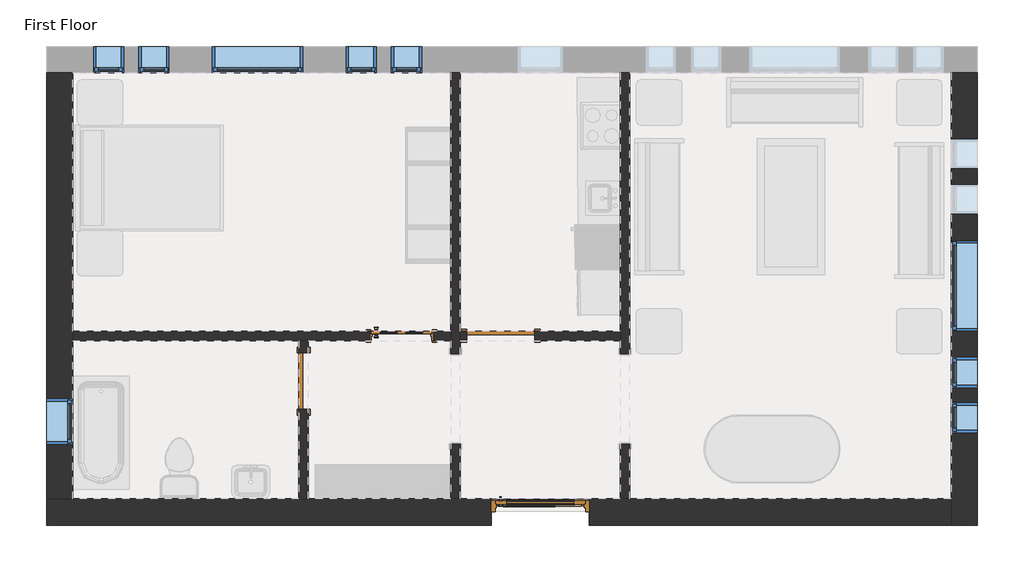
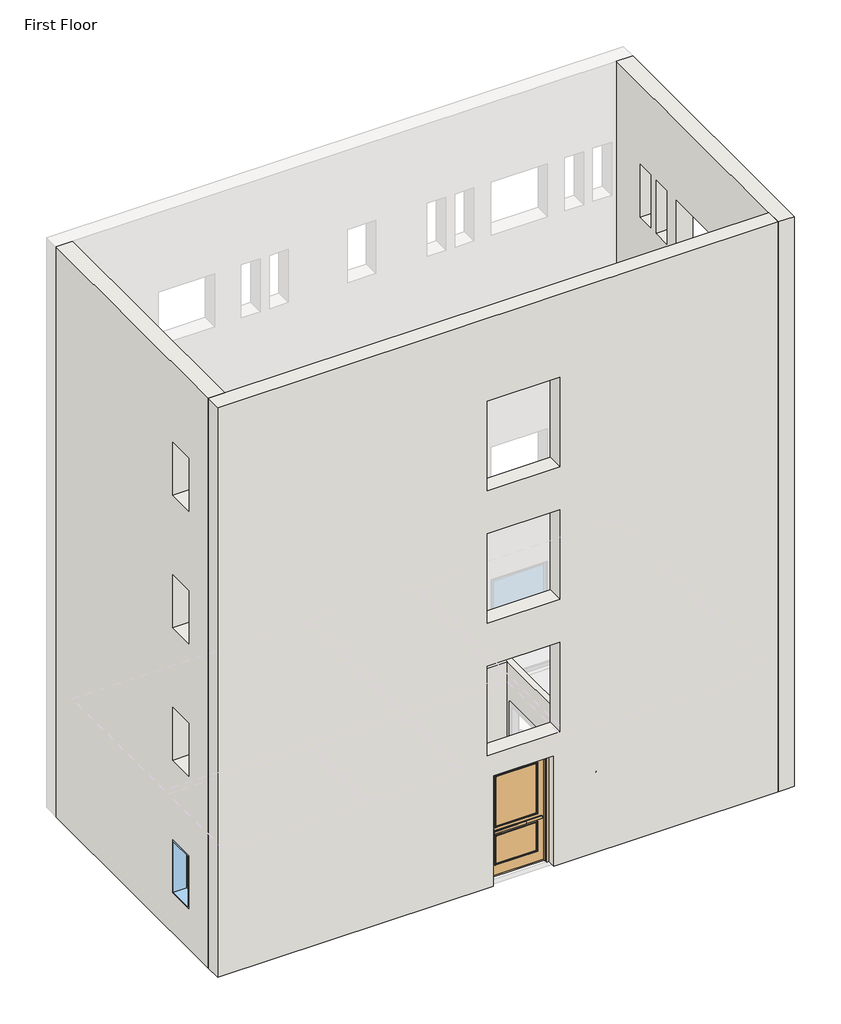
# One storey, part 1 of 2: 9 windows, 7 walls, 4 doors.
"""IFC4 building model written with IfcOpenShell, lengths in millimetres."""

from ifc_helpers import new_model, si_unit, frame, origin, place, context, project, spatial, polyline, outline, extrude, faceted_brep, transform, mapped, element, save
from components import door_c4539963, door_interior_single_4_panel_wood_door_interior_single_4_f9b1e9fa, door_4d6c7550, door_a3eb833a, window_da97879f, window_d61ef850, window_60baf983, window_6eb97611

model = new_model("IFC4")

# Units and contexts
model_context = context("Model", 3, world=origin())
ifc_project = project(units=[si_unit("LENGTHUNIT", "METRE", prefix="MILLI")], contexts=[model_context])

# Site, building, storey
site = spatial("IfcSite", under=ifc_project)
building = spatial("IfcBuilding", under=site)
storey = spatial("IfcBuildingStorey", under=building, Name="First Floor", Elevation=0.0)

# Doors
placement = place(None, origin())
door_shape = door_c4539963(model_context)
element("IfcDoor", 1, ObjectType="Door-Exterior-Single-Two_Lite : 48\" x 96\"", at=placement, inside=storey, context=model_context, shape_type="MappedRepresentation", body=[
    mapped(door_shape, transform((2065.4428612, -1.244181, 0.0), x_axis=(1.0, 0.0, 0.0), y_axis=(0.0, 1.0, 0.0), z_axis=(0.0, 0.0, 1.0))),
])
door_interior_single_4_panel_wood_door_interior_single_4_shape = door_interior_single_4_panel_wood_door_interior_single_4_f9b1e9fa(model_context)
element("IfcDoor", 2, ObjectType="Door-Interior-Single-4_Panel-Wood : Door-Interior-Single-4_Panel-Wood", at=placement, inside=storey, context=model_context, shape_type="MappedRepresentation", body=[
    mapped(door_interior_single_4_panel_wood_door_interior_single_4_shape, transform((196.9553612, 2381.593319, 0.0), x_axis=(1.0, 0.0, 0.0), y_axis=(0.0, 1.0, 0.0), z_axis=(0.0, 0.0, 1.0))),
])
door_2_shape = door_4d6c7550(model_context)
element("IfcDoor", 3, ObjectType="Single-Flush : 30\" x 84\"", at=placement, inside=storey, context=model_context, shape_type="MappedRepresentation", body=[
    mapped(door_2_shape, transform((-1123.8446388, 1768.818319, 0.0), x_axis=(0.0, 1.0, 0.0), y_axis=(-1.0, 0.0, 0.0), z_axis=(0.0, 0.0, 1.0))),
])
door_3_shape = door_a3eb833a(model_context)
element("IfcDoor", 4, ObjectType="Single-Flush : 36\" x 84\"", at=placement, inside=storey, context=model_context, shape_type="MappedRepresentation", body=[
    mapped(door_3_shape, transform((1532.0428612, 2378.418319, 0.0), x_axis=(-1.0, 0.0, 0.0), y_axis=(0.0, -1.0, 0.0), z_axis=(0.0, 0.0, 1.0))),
])

# Walls
element("IfcWall", 5, ObjectType="Exterior - Brick on Mtl. Stud", at=placement, inside=storey, context=model_context, shape_type="Brep", body=[
    faceted_brep([(7604.2303612, 5924.893319, 0.0), (7604.2303612, 181.318319, 0.0), (7604.2303612, 16.218319, 0.0), (7604.2303612, -171.106681, 0.0), (7604.2303612, -171.106681, 13106.4), (7604.2303612, 181.318319, 13106.4), (7604.2303612, 5924.893319, 13106.4), (7604.2303612, 3662.705819, 2133.6), (7604.2303612, 2443.505819, 2133.6), (7604.2303612, 2443.505819, 914.4), (7604.2303612, 3662.705819, 914.4), (7604.2303612, 4424.705819, 2133.6), (7604.2303612, 4018.305819, 2133.6), (7604.2303612, 4018.305819, 914.4), (7604.2303612, 4424.705819, 914.4), (7604.2303612, 5034.305819, 2133.6), (7604.2303612, 4627.905819, 2133.6), (7604.2303612, 4627.905819, 914.4), (7604.2303612, 5034.305819, 914.4), (7604.2303612, 1681.505819, 2133.6), (7604.2303612, 1681.505819, 914.4), (7604.2303612, 2087.905819, 914.4), (7604.2303612, 2087.905819, 2133.6), (7604.2303612, 1071.905819, 2133.6), (7604.2303612, 1071.905819, 914.4), (7604.2303612, 1478.305819, 914.4), (7604.2303612, 1478.305819, 2133.6), (7604.2303612, 1681.505819, 11277.6), (7604.2303612, 1681.505819, 10058.4), (7604.2303612, 2087.905819, 10058.4), (7604.2303612, 2087.905819, 11277.6), (7604.2303612, 1071.905819, 11277.6), (7604.2303612, 1071.905819, 10058.4), (7604.2303612, 1478.305819, 10058.4), (7604.2303612, 1478.305819, 11277.6), (7604.2303612, 4424.705819, 11277.6), (7604.2303612, 4018.305819, 11277.6), (7604.2303612, 4018.305819, 10058.4), (7604.2303612, 4424.705819, 10058.4), (7604.2303612, 5034.305819, 11277.6), (7604.2303612, 4627.905819, 11277.6), (7604.2303612, 4627.905819, 10058.4), (7604.2303612, 5034.305819, 10058.4), (7604.2303612, 3662.705819, 11277.6), (7604.2303612, 2443.505819, 11277.6), (7604.2303612, 2443.505819, 10058.4), (7604.2303612, 3662.705819, 10058.4), (7604.2303612, 1681.505819, 5181.6), (7604.2303612, 1681.505819, 3962.4), (7604.2303612, 2087.905819, 3962.4), (7604.2303612, 2087.905819, 5181.6), (7604.2303612, 1071.905819, 5181.6), (7604.2303612, 1071.905819, 3962.4), (7604.2303612, 1478.305819, 3962.4), (7604.2303612, 1478.305819, 5181.6), (7604.2303612, 4424.705819, 5181.6), (7604.2303612, 4018.305819, 5181.6), (7604.2303612, 4018.305819, 3962.4), (7604.2303612, 4424.705819, 3962.4), (7604.2303612, 5034.305819, 5181.6), (7604.2303612, 4627.905819, 5181.6), (7604.2303612, 4627.905819, 3962.4), (7604.2303612, 5034.305819, 3962.4), (7604.2303612, 3662.705819, 5181.6), (7604.2303612, 2443.505819, 5181.6), (7604.2303612, 2443.505819, 3962.4), (7604.2303612, 3662.705819, 3962.4), (7604.2303612, 1681.505819, 8229.6), (7604.2303612, 1681.505819, 7010.4), (7604.2303612, 2087.905819, 7010.4), (7604.2303612, 2087.905819, 8229.6), (7604.2303612, 1071.905819, 8229.6), (7604.2303612, 1071.905819, 7010.4), (7604.2303612, 1478.305819, 7010.4), (7604.2303612, 1478.305819, 8229.6), (7604.2303612, 4424.705819, 8229.6), (7604.2303612, 4018.305819, 8229.6), (7604.2303612, 4018.305819, 7010.4), (7604.2303612, 4424.705819, 7010.4), (7604.2303612, 5034.305819, 8229.6), (7604.2303612, 4627.905819, 8229.6), (7604.2303612, 4627.905819, 7010.4), (7604.2303612, 5034.305819, 7010.4), (7604.2303612, 3662.705819, 8229.6), (7604.2303612, 2443.505819, 8229.6), (7604.2303612, 2443.505819, 7010.4), (7604.2303612, 3662.705819, 7010.4), (7956.6553612, 5924.893319, 0.0), (7956.6553612, 5924.893319, 13106.4), (7956.6553612, -171.106681, 13106.4), (7956.6553612, -171.106681, 0.0), (7956.6553612, 16.218319, 0.0), (7956.6553612, 3662.705819, 2133.6), (7956.6553612, 3662.705819, 914.4), (7956.6553612, 2443.505819, 914.4), (7956.6553612, 2443.505819, 2133.6), (7956.6553612, 4424.705819, 2133.6), (7956.6553612, 4424.705819, 914.4), (7956.6553612, 4018.305819, 914.4), (7956.6553612, 4018.305819, 2133.6), (7956.6553612, 5034.305819, 2133.6), (7956.6553612, 5034.305819, 914.4), (7956.6553612, 4627.905819, 914.4), (7956.6553612, 4627.905819, 2133.6), (7956.6553612, 1681.505819, 2133.6), (7956.6553612, 2087.905819, 2133.6), (7956.6553612, 2087.905819, 914.4), (7956.6553612, 1681.505819, 914.4), (7956.6553612, 1071.905819, 2133.6), (7956.6553612, 1478.305819, 2133.6), (7956.6553612, 1478.305819, 914.4), (7956.6553612, 1071.905819, 914.4), (7956.6553612, 1681.505819, 11277.6), (7956.6553612, 2087.905819, 11277.6), (7956.6553612, 2087.905819, 10058.4), (7956.6553612, 1681.505819, 10058.4), (7956.6553612, 1071.905819, 11277.6), (7956.6553612, 1478.305819, 11277.6), (7956.6553612, 1478.305819, 10058.4), (7956.6553612, 1071.905819, 10058.4), (7956.6553612, 4424.705819, 11277.6), (7956.6553612, 4424.705819, 10058.4), (7956.6553612, 4018.305819, 10058.4), (7956.6553612, 4018.305819, 11277.6), (7956.6553612, 5034.305819, 11277.6), (7956.6553612, 5034.305819, 10058.4), (7956.6553612, 4627.905819, 10058.4), (7956.6553612, 4627.905819, 11277.6), (7956.6553612, 3662.705819, 11277.6), (7956.6553612, 3662.705819, 10058.4), (7956.6553612, 2443.505819, 10058.4), (7956.6553612, 2443.505819, 11277.6), (7956.6553612, 1681.505819, 5181.6), (7956.6553612, 2087.905819, 5181.6), (7956.6553612, 2087.905819, 3962.4), (7956.6553612, 1681.505819, 3962.4), (7956.6553612, 1071.905819, 5181.6), (7956.6553612, 1478.305819, 5181.6), (7956.6553612, 1478.305819, 3962.4), (7956.6553612, 1071.905819, 3962.4), (7956.6553612, 4424.705819, 5181.6), (7956.6553612, 4424.705819, 3962.4), (7956.6553612, 4018.305819, 3962.4), (7956.6553612, 4018.305819, 5181.6), (7956.6553612, 5034.305819, 5181.6), (7956.6553612, 5034.305819, 3962.4), (7956.6553612, 4627.905819, 3962.4), (7956.6553612, 4627.905819, 5181.6), (7956.6553612, 3662.705819, 5181.6), (7956.6553612, 3662.705819, 3962.4), (7956.6553612, 2443.505819, 3962.4), (7956.6553612, 2443.505819, 5181.6), (7956.6553612, 1681.505819, 8229.6), (7956.6553612, 2087.905819, 8229.6), (7956.6553612, 2087.905819, 7010.4), (7956.6553612, 1681.505819, 7010.4), (7956.6553612, 1071.905819, 8229.6), (7956.6553612, 1478.305819, 8229.6), (7956.6553612, 1478.305819, 7010.4), (7956.6553612, 1071.905819, 7010.4), (7956.6553612, 4424.705819, 8229.6), (7956.6553612, 4424.705819, 7010.4), (7956.6553612, 4018.305819, 7010.4), (7956.6553612, 4018.305819, 8229.6), (7956.6553612, 5034.305819, 8229.6), (7956.6553612, 5034.305819, 7010.4), (7956.6553612, 4627.905819, 7010.4), (7956.6553612, 4627.905819, 8229.6), (7956.6553612, 3662.705819, 8229.6), (7956.6553612, 3662.705819, 7010.4), (7956.6553612, 2443.505819, 7010.4), (7956.6553612, 2443.505819, 8229.6), (7769.3303612, 5924.893319, 0.0), (7769.3303612, -171.106681, 0.0), (7769.3303612, 16.218319, 0.0)], [[[0, 1, 2, 3, 4, 5, 6], [7, 8, 9, 10], [11, 12, 13, 14], [15, 16, 17, 18], [19, 20, 21, 22], [23, 24, 25, 26], [27, 28, 29, 30], [31, 32, 33, 34], [35, 36, 37, 38], [39, 40, 41, 42], [43, 44, 45, 46], [47, 48, 49, 50], [51, 52, 53, 54], [55, 56, 57, 58], [59, 60, 61, 62], [63, 64, 65, 66], [67, 68, 69, 70], [71, 72, 73, 74], [75, 76, 77, 78], [79, 80, 81, 82], [83, 84, 85, 86]], [[87, 88, 89, 90, 91], [92, 93, 94, 95], [96, 97, 98, 99], [100, 101, 102, 103], [104, 105, 106, 107], [108, 109, 110, 111], [112, 113, 114, 115], [116, 117, 118, 119], [120, 121, 122, 123], [124, 125, 126, 127], [128, 129, 130, 131], [132, 133, 134, 135], [136, 137, 138, 139], [140, 141, 142, 143], [144, 145, 146, 147], [148, 149, 150, 151], [152, 153, 154, 155], [156, 157, 158, 159], [160, 161, 162, 163], [164, 165, 166, 167], [168, 169, 170, 171]], [[6, 5, 4, 89, 88]], [[0, 6, 88, 87, 172]], [[4, 3, 173, 90, 89]], [[93, 92, 7, 10]], [[94, 93, 10, 9]], [[95, 94, 9, 8]], [[92, 95, 8, 7]], [[97, 96, 11, 14]], [[98, 97, 14, 13]], [[99, 98, 13, 12]], [[96, 99, 12, 11]], [[101, 100, 15, 18]], [[102, 101, 18, 17]], [[103, 102, 17, 16]], [[100, 103, 16, 15]], [[20, 19, 104, 107]], [[21, 20, 107, 106]], [[22, 21, 106, 105]], [[19, 22, 105, 104]], [[24, 23, 108, 111]], [[25, 24, 111, 110]], [[26, 25, 110, 109]], [[23, 26, 109, 108]], [[172, 87, 91, 174]], [[3, 2, 174, 173]], [[174, 91, 90, 173]], [[2, 1, 0, 172, 174]], [[28, 27, 112, 115]], [[29, 28, 115, 114]], [[30, 29, 114, 113]], [[27, 30, 113, 112]], [[32, 31, 116, 119]], [[33, 32, 119, 118]], [[34, 33, 118, 117]], [[31, 34, 117, 116]], [[121, 120, 35, 38]], [[122, 121, 38, 37]], [[123, 122, 37, 36]], [[120, 123, 36, 35]], [[125, 124, 39, 42]], [[126, 125, 42, 41]], [[127, 126, 41, 40]], [[124, 127, 40, 39]], [[129, 128, 43, 46]], [[130, 129, 46, 45]], [[131, 130, 45, 44]], [[128, 131, 44, 43]], [[48, 47, 132, 135]], [[49, 48, 135, 134]], [[50, 49, 134, 133]], [[47, 50, 133, 132]], [[52, 51, 136, 139]], [[53, 52, 139, 138]], [[54, 53, 138, 137]], [[51, 54, 137, 136]], [[141, 140, 55, 58]], [[142, 141, 58, 57]], [[143, 142, 57, 56]], [[140, 143, 56, 55]], [[145, 144, 59, 62]], [[146, 145, 62, 61]], [[147, 146, 61, 60]], [[144, 147, 60, 59]], [[149, 148, 63, 66]], [[150, 149, 66, 65]], [[151, 150, 65, 64]], [[148, 151, 64, 63]], [[68, 67, 152, 155]], [[69, 68, 155, 154]], [[70, 69, 154, 153]], [[67, 70, 153, 152]], [[72, 71, 156, 159]], [[73, 72, 159, 158]], [[74, 73, 158, 157]], [[71, 74, 157, 156]], [[161, 160, 75, 78]], [[162, 161, 78, 77]], [[163, 162, 77, 76]], [[160, 163, 76, 75]], [[165, 164, 79, 82]], [[166, 165, 82, 81]], [[167, 166, 81, 80]], [[164, 167, 80, 79]], [[169, 168, 83, 86]], [[170, 169, 86, 85]], [[171, 170, 85, 84]], [[168, 171, 84, 83]]]),
])
element("IfcWall", 6, ObjectType="Exterior - Brick on Mtl. Stud", at=placement, inside=storey, context=model_context, shape_type="Brep", body=[
    faceted_brep([(-4587.7696388, 181.318319, 13106.4), (-4235.3446388, 181.318319, 13106.4), (7604.2303612, 181.318319, 13106.4), (7604.2303612, 181.318319, 0.0), (3271.9428612, 181.318319, 0.0), (3144.9428612, 181.318319, 0.0), (2725.8428612, 181.318319, 0.0), (2725.8428612, 181.318319, 2540.0), (1405.0428612, 181.318319, 2540.0), (1405.0428612, 181.318319, 0.0), (985.9428612, 181.318319, 0.0), (858.9428612, 181.318319, 0.0), (-1060.3446388, 181.318319, 0.0), (-1187.3446388, 181.318319, 0.0), (-4235.3446388, 181.318319, 0.0), (-4587.7696388, 181.318319, 0.0), (2852.8428612, 181.318319, 9144.0), (2852.8428612, 181.318319, 11201.4), (1278.0428612, 181.318319, 11201.4), (1278.0428612, 181.318319, 9144.0), (2852.8428612, 181.318319, 3048.0), (2852.8428612, 181.318319, 5105.4), (1278.0428612, 181.318319, 5105.4), (1278.0428612, 181.318319, 3048.0), (2852.8428612, 181.318319, 6096.0), (2852.8428612, 181.318319, 8153.4), (1278.0428612, 181.318319, 8153.4), (1278.0428612, 181.318319, 6096.0), (7604.2303612, -171.106681, 13106.4), (-4587.7696388, -171.106681, 13106.4), (-4587.7696388, -171.106681, 0.0), (1405.0428612, -171.106681, 0.0), (1405.0428612, -171.106681, 2540.0), (2725.8428612, -171.106681, 2540.0), (2725.8428612, -171.106681, 0.0), (7604.2303612, -171.106681, 0.0), (2852.8428612, -171.106681, 11201.4), (2852.8428612, -171.106681, 9144.0), (1278.0428612, -171.106681, 9144.0), (1278.0428612, -171.106681, 11201.4), (2852.8428612, -171.106681, 5105.4), (2852.8428612, -171.106681, 3048.0), (1278.0428612, -171.106681, 3048.0), (1278.0428612, -171.106681, 5105.4), (2852.8428612, -171.106681, 8153.4), (2852.8428612, -171.106681, 6096.0), (1278.0428612, -171.106681, 6096.0), (1278.0428612, -171.106681, 8153.4)], [[[0, 1, 2, 3, 4, 5, 6, 7, 8, 9, 10, 11, 12, 13, 14, 15], [16, 17, 18, 19], [20, 21, 22, 23], [24, 25, 26, 27]], [[28, 29, 30, 31, 32, 33, 34, 35], [36, 37, 38, 39], [40, 41, 42, 43], [44, 45, 46, 47]], [[3, 35, 34, 6, 5, 4]], [[30, 15, 14, 13, 12, 11, 10, 9, 31]], [[2, 1, 0, 29, 28]], [[3, 2, 28, 35]], [[0, 15, 30, 29]], [[17, 16, 37, 36]], [[18, 17, 36, 39]], [[19, 18, 39, 38]], [[16, 19, 38, 37]], [[21, 20, 41, 40]], [[22, 21, 40, 43]], [[23, 22, 43, 42]], [[20, 23, 42, 41]], [[25, 24, 45, 44]], [[26, 25, 44, 47]], [[27, 26, 47, 46]], [[24, 27, 46, 45]], [[33, 7, 6, 34]], [[7, 33, 32, 8]], [[8, 32, 31, 9]]]),
])
element("IfcWall", 7, ObjectType="Exterior - Brick on Mtl. Stud", at=placement, inside=storey, context=model_context, shape_type="Brep", body=[
    faceted_brep([(-4235.3446388, 181.318319, 0.0), (-4235.3446388, 2314.918319, 0.0), (-4235.3446388, 2441.918319, 0.0), (-4235.3446388, 5924.893319, 0.0), (-4235.3446388, 5924.893319, 13106.4), (-4235.3446388, 181.318319, 13106.4), (-4235.3446388, 919.505819, 2133.6), (-4235.3446388, 1529.105819, 2133.6), (-4235.3446388, 1529.105819, 914.4), (-4235.3446388, 919.505819, 914.4), (-4235.3446388, 919.505819, 11277.6), (-4235.3446388, 1529.105819, 11277.6), (-4235.3446388, 1529.105819, 10058.4), (-4235.3446388, 919.505819, 10058.4), (-4235.3446388, 919.505819, 5181.6), (-4235.3446388, 1529.105819, 5181.6), (-4235.3446388, 1529.105819, 3962.4), (-4235.3446388, 919.505819, 3962.4), (-4235.3446388, 919.505819, 8229.6), (-4235.3446388, 1529.105819, 8229.6), (-4235.3446388, 1529.105819, 7010.4), (-4235.3446388, 919.505819, 7010.4), (-4587.7696388, 181.318319, 0.0), (-4587.7696388, 181.318319, 13106.4), (-4587.7696388, 5924.893319, 13106.4), (-4587.7696388, 5924.893319, 0.0), (-4587.7696388, 919.505819, 2133.6), (-4587.7696388, 919.505819, 914.4), (-4587.7696388, 1529.105819, 914.4), (-4587.7696388, 1529.105819, 2133.6), (-4587.7696388, 919.505819, 11277.6), (-4587.7696388, 919.505819, 10058.4), (-4587.7696388, 1529.105819, 10058.4), (-4587.7696388, 1529.105819, 11277.6), (-4587.7696388, 919.505819, 5181.6), (-4587.7696388, 919.505819, 3962.4), (-4587.7696388, 1529.105819, 3962.4), (-4587.7696388, 1529.105819, 5181.6), (-4587.7696388, 919.505819, 8229.6), (-4587.7696388, 919.505819, 7010.4), (-4587.7696388, 1529.105819, 7010.4), (-4587.7696388, 1529.105819, 8229.6), (-4400.4446388, 181.318319, 0.0), (-4400.4446388, 5924.893319, 0.0)], [[[0, 1, 2, 3, 4, 5], [6, 7, 8, 9], [10, 11, 12, 13], [14, 15, 16, 17], [18, 19, 20, 21]], [[22, 23, 24, 25], [26, 27, 28, 29], [30, 31, 32, 33], [34, 35, 36, 37], [38, 39, 40, 41]], [[5, 4, 24, 23]], [[0, 5, 23, 22, 42]], [[4, 3, 43, 25, 24]], [[27, 26, 6, 9]], [[28, 27, 9, 8]], [[29, 28, 8, 7]], [[26, 29, 7, 6]], [[42, 22, 25, 43]], [[3, 2, 1, 0, 42, 43]], [[31, 30, 10, 13]], [[32, 31, 13, 12]], [[33, 32, 12, 11]], [[30, 33, 11, 10]], [[35, 34, 14, 17]], [[36, 35, 17, 16]], [[37, 36, 16, 15]], [[34, 37, 15, 14]], [[39, 38, 18, 21]], [[40, 39, 21, 20]], [[41, 40, 20, 19]], [[38, 41, 19, 18]]]),
])
element("IfcWall", 8, ObjectType="Interior - 5\" Partition (2-hr)", at=placement, inside=storey, context=model_context, shape_type="Brep", body=[
    faceted_brep([(3144.9428612, 5924.893319, 0.0), (3144.9428612, 2441.918319, 0.0), (3144.9428612, 2314.918319, 0.0), (3144.9428612, 2138.705819, 0.0), (3144.9428612, 2138.705819, 2133.6), (3144.9428612, 919.505819, 2133.6), (3144.9428612, 919.505819, 0.0), (3144.9428612, 181.318319, 0.0), (3144.9428612, 181.318319, 3048.0), (3144.9428612, 2314.918319, 3048.0), (3144.9428612, 2441.918319, 3048.0), (3144.9428612, 5924.893319, 3048.0), (3271.9428612, 2138.705819, 2133.6), (3271.9428612, 2138.705819, 0.0), (3271.9428612, 5924.893319, 0.0), (3271.9428612, 5924.893319, 3048.0), (3271.9428612, 181.318319, 3048.0), (3271.9428612, 181.318319, 0.0), (3271.9428612, 919.505819, 0.0), (3271.9428612, 919.505819, 2133.6)], [[[0, 1, 2, 3, 4, 5, 6, 7, 8, 9, 10, 11]], [[12, 13, 14, 15, 16, 17, 18, 19]], [[18, 17, 7, 6]], [[14, 13, 3, 2, 1, 0]], [[11, 10, 9, 8, 16, 15]], [[0, 11, 15, 14]], [[8, 7, 17, 16]], [[6, 5, 19, 18]], [[4, 3, 13, 12]], [[5, 4, 12, 19]]]),
])
element("IfcWall", 9, ObjectType="Interior - 5\" Partition (2-hr)", at=placement, inside=storey, context=model_context, shape_type="Brep", body=[
    faceted_brep([(858.9428612, 919.505819, 2133.6), (858.9428612, 919.505819, 0.0), (858.9428612, 181.318319, 0.0), (858.9428612, 181.318319, 3048.0), (858.9428612, 2314.918319, 3048.0), (858.9428612, 2441.918319, 3048.0), (858.9428612, 5924.893319, 3048.0), (858.9428612, 5924.893319, 0.0), (858.9428612, 2441.918319, 0.0), (858.9428612, 2314.918319, 0.0), (858.9428612, 2138.705819, 0.0), (858.9428612, 2138.705819, 2133.6), (985.9428612, 181.318319, 0.0), (985.9428612, 919.505819, 0.0), (985.9428612, 919.505819, 2133.6), (985.9428612, 2138.705819, 2133.6), (985.9428612, 2138.705819, 0.0), (985.9428612, 2314.918319, 0.0), (985.9428612, 2441.918319, 0.0), (985.9428612, 5924.893319, 0.0), (985.9428612, 5924.893319, 3048.0), (985.9428612, 2441.918319, 3048.0), (985.9428612, 2314.918319, 3048.0), (985.9428612, 181.318319, 3048.0)], [[[0, 1, 2, 3, 4, 5, 6, 7, 8, 9, 10, 11]], [[12, 13, 14, 15, 16, 17, 18, 19, 20, 21, 22, 23]], [[2, 1, 13, 12]], [[10, 9, 8, 7, 19, 18, 17, 16]], [[6, 5, 4, 3, 23, 22, 21, 20]], [[7, 6, 20, 19]], [[3, 2, 12, 23]], [[16, 15, 11, 10]], [[14, 13, 1, 0]], [[15, 14, 0, 11]]]),
])
element("IfcWall", 10, ObjectType="Interior - 5\" Partition (2-hr)", at=placement, inside=storey, context=model_context, shape_type="Brep", body=[
    faceted_brep([(-4235.3446388, 2314.918319, 3048.0), (-4235.3446388, 2314.918319, 0.0), (-1187.3446388, 2314.918319, 0.0), (-1060.3446388, 2314.918319, 0.0), (-234.8446388, 2314.918319, 0.0), (-234.8446388, 2314.918319, 2057.4), (628.7553612, 2314.918319, 2057.4), (628.7553612, 2314.918319, 0.0), (858.9428612, 2314.918319, 0.0), (858.9428612, 2314.918319, 3048.0), (-1060.3446388, 2314.918319, 3048.0), (-1187.3446388, 2314.918319, 3048.0), (-4235.3446388, 2441.918319, 0.0), (-4235.3446388, 2441.918319, 3048.0), (858.9428612, 2441.918319, 3048.0), (858.9428612, 2441.918319, 0.0), (628.7553612, 2441.918319, 0.0), (628.7553612, 2441.918319, 2057.4), (-234.8446388, 2441.918319, 2057.4), (-234.8446388, 2441.918319, 0.0)], [[[0, 1, 2, 3, 4, 5, 6, 7, 8, 9, 10, 11]], [[12, 13, 14, 15, 16, 17, 18, 19]], [[1, 12, 19, 4, 3, 2]], [[7, 16, 15, 8]], [[13, 0, 11, 10, 9, 14]], [[1, 0, 13, 12]], [[9, 8, 15, 14]], [[6, 17, 16, 7]], [[17, 6, 5, 18]], [[18, 5, 4, 19]]]),
    faceted_brep([(3144.9428612, 2314.918319, 0.0), (3144.9428612, 2314.918319, 3048.0), (985.9428612, 2314.918319, 3048.0), (985.9428612, 2314.918319, 0.0), (1074.8428612, 2314.918319, 0.0), (1074.8428612, 2314.918319, 2133.6), (1989.2428612, 2314.918319, 2133.6), (1989.2428612, 2314.918319, 0.0), (3144.9428612, 2441.918319, 3048.0), (3144.9428612, 2441.918319, 0.0), (1989.2428612, 2441.918319, 0.0), (1989.2428612, 2441.918319, 2133.6), (1074.8428612, 2441.918319, 2133.6), (1074.8428612, 2441.918319, 0.0), (985.9428612, 2441.918319, 0.0), (985.9428612, 2441.918319, 3048.0)], [[[0, 1, 2, 3, 4, 5, 6, 7]], [[8, 9, 10, 11, 12, 13, 14, 15]], [[9, 0, 7, 10]], [[13, 4, 3, 14]], [[1, 8, 15, 2]], [[1, 0, 9, 8]], [[3, 2, 15, 14]], [[5, 4, 13, 12]], [[6, 5, 12, 11]], [[7, 6, 11, 10]]]),
])
element("IfcWall", 11, ObjectType="Interior - 5\" Partition (2-hr)", at=placement, inside=storey, context=model_context, shape_type="SweptSolid", body=[
    extrude(outline(polyline([(2314.918319, 0.0), (2149.818319, 0.0), (2149.818319, 2133.6), (1387.818319, 2133.6), (1387.818319, 0.0), (181.318319, 0.0), (181.318319, 3048.0), (2314.918319, 3048.0), (2314.918319, 0.0)])), frame((-1187.3446388, 0.0, 0.0), z_axis=(1.0, 0.0, 0.0), x_axis=(0.0, 1.0, 0.0)), (0.0, 0.0, 1.0), 127.0),
])

# Windows
window_shape = window_da97879f(model_context)
element("IfcWindow", 12, ObjectType="Fixed : 16\" x 48\"", at=placement, inside=storey, context=model_context, shape_type="MappedRepresentation", body=[
    mapped(window_shape, transform((-3789.2571388, 6101.105819, 0.0), x_axis=(-1.0, 0.0, 0.0), y_axis=(0.0, -1.0, 0.0), z_axis=(0.0, 0.0, 1.0))),
])
element("IfcWindow", 13, ObjectType="Fixed : 16\" x 48\"", at=placement, inside=storey, context=model_context, shape_type="MappedRepresentation", body=[
    mapped(window_shape, transform((-3179.6571388, 6101.105819, 0.0), x_axis=(-1.0, 0.0, 0.0), y_axis=(0.0, -1.0, 0.0), z_axis=(0.0, 0.0, 1.0))),
])
window_2_shape = window_d61ef850(model_context)
element("IfcWindow", 14, ObjectType="Fixed : 16\" x 48\"", at=placement, inside=storey, context=model_context, shape_type="MappedRepresentation", body=[
    mapped(window_2_shape, transform((300.1428612, 6101.105819, 0.0), x_axis=(1.0, 0.0, 0.0), y_axis=(0.0, 1.0, 0.0), z_axis=(0.0, 0.0, 1.0))),
])
element("IfcWindow", 15, ObjectType="Fixed : 16\" x 48\"", at=placement, inside=storey, context=model_context, shape_type="MappedRepresentation", body=[
    mapped(window_2_shape, transform((-309.4571388, 6101.105819, 0.0), x_axis=(1.0, 0.0, 0.0), y_axis=(0.0, 1.0, 0.0), z_axis=(0.0, 0.0, 1.0))),
])
element("IfcWindow", 16, ObjectType="Fixed : 16\" x 48\"", at=placement, inside=storey, context=model_context, shape_type="MappedRepresentation", body=[
    mapped(window_2_shape, transform((7780.4428612, 1237.005819, 0.0), x_axis=(0.0, -1.0, 0.0), y_axis=(1.0, 0.0, 0.0), z_axis=(0.0, 0.0, 1.0))),
])
element("IfcWindow", 17, ObjectType="Fixed : 16\" x 48\"", at=placement, inside=storey, context=model_context, shape_type="MappedRepresentation", body=[
    mapped(window_2_shape, transform((7780.4428612, 1846.605819, 0.0), x_axis=(0.0, -1.0, 0.0), y_axis=(1.0, 0.0, 0.0), z_axis=(0.0, 0.0, 1.0))),
])
window_3_shape = window_60baf983(model_context)
element("IfcWindow", 18, ObjectType="Fixed : 24\" x 48\"", at=placement, inside=storey, context=model_context, shape_type="MappedRepresentation", body=[
    mapped(window_3_shape, transform((-4411.5571388, 1186.205819, 0.0), x_axis=(0.0, -1.0, 0.0), y_axis=(1.0, 0.0, 0.0), z_axis=(0.0, 0.0, 1.0))),
])
window_4_shape = window_6eb97611(model_context)
element("IfcWindow", 19, ObjectType="Fixed : 48\" x 48\"", at=placement, inside=storey, context=model_context, shape_type="MappedRepresentation", body=[
    mapped(window_4_shape, transform((-1782.6571388, 6101.105819, 0.0), x_axis=(-1.0, 0.0, 0.0), y_axis=(0.0, -1.0, 0.0), z_axis=(0.0, 0.0, 1.0))),
])
element("IfcWindow", 20, ObjectType="Fixed : 48\" x 48\"", at=placement, inside=storey, context=model_context, shape_type="MappedRepresentation", body=[
    mapped(window_4_shape, transform((7780.4428612, 3091.205819, 0.0), x_axis=(0.0, 1.0, 0.0), y_axis=(-1.0, 0.0, 0.0), z_axis=(0.0, 0.0, 1.0))),
])

save(model, "model.ifc")
